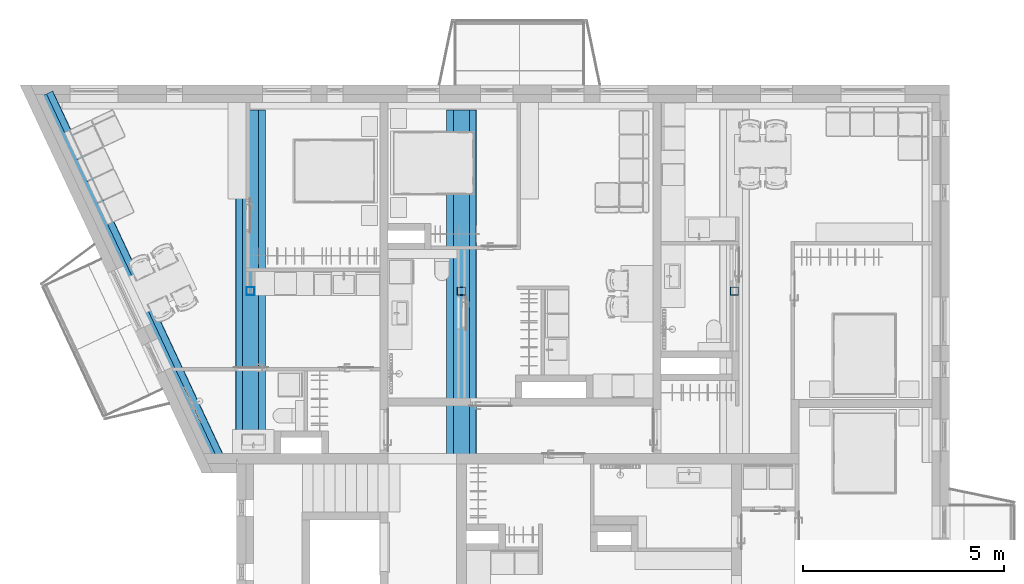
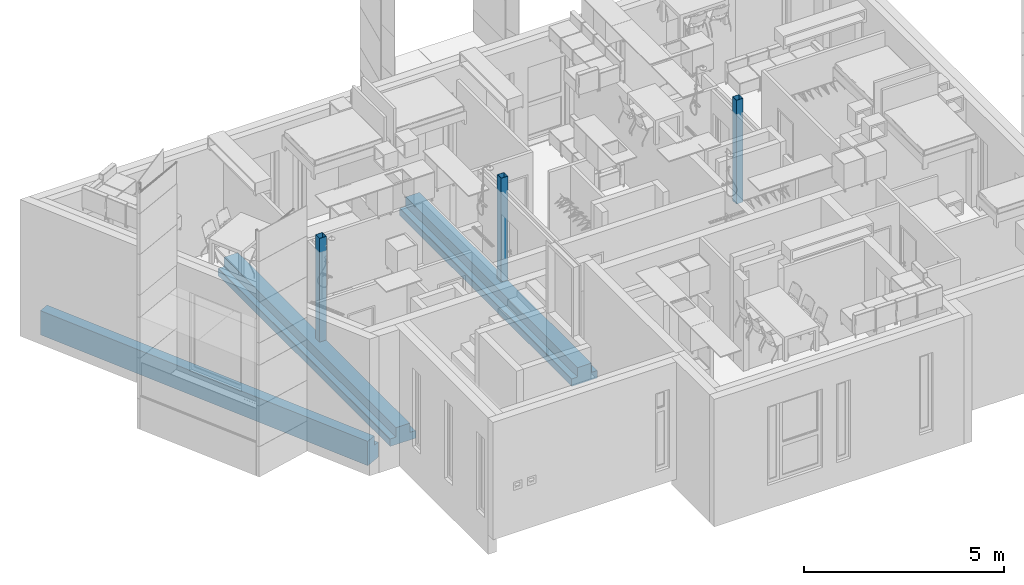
# One storey, part 1 of 125: 3 beams, 3 columns.
"""IFC2X3 building model written with IfcOpenShell, lengths in millimetres."""

from ifc_helpers import new_model, entity, si_unit, converted_unit, direction, frame, origin, place, context, subcontext, project, spatial, polyline, outline, extrude, source, transform, mapped, material, type_object, type_shapes, element, save


model = new_model("IFC2X3")

# Units and contexts
model_context = context("Model", 3, precision=0.01, world=origin(), true_north=direction((6.123233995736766e-17, 1.0)))
plan_context = context("Plan", 3, precision=0.01, world=origin(), true_north=direction((6.123233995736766e-17, 1.0)))
body_context = subcontext(model_context, "Body", "Model", "MODEL_VIEW")
ifc_project = project(units=[si_unit("LENGTHUNIT", "METRE", prefix="MILLI"), converted_unit("PLANEANGLEUNIT", "DEGREE", entity("IfcPlaneAngleMeasure", 0.017453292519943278), si_unit("PLANEANGLEUNIT", "RADIAN"), dimensions=[0, 0, 0, 0, 0, 0, 0]), si_unit("AREAUNIT", "SQUARE_METRE")], contexts=[model_context, plan_context])

# Site, building, storey
site_placement = place(None, origin())
site = spatial("IfcSite", under=ifc_project, at=site_placement, Name="Default", CompositionType="ELEMENT")
building_placement = place(site_placement, origin())
building = spatial("IfcBuilding", under=site, at=building_placement, CompositionType="ELEMENT")
storey_placement = place(building_placement, frame((0.0, 0.0, 3125.0)))
storey = spatial("IfcBuildingStorey", under=building, at=storey_placement, Name="2K", CompositionType="ELEMENT", Elevation=3125.0)

# Columns
ifc_material_1 = material(Name="_K. Metall. Teras. Värvitud")
column_type_1 = type_object("IfcColumnType", Name="HR_Column_Rectangular_Hollow:200x200x5", PredefinedType="COLUMN", material=ifc_material_1)
shared_shape_1 = source(origin(), body_context, "Body", "SweptSolid", [
    extrude(outline(polyline([(-100.0, -100.0), (100.0, -100.0), (100.0, 100.0), (-100.0, 100.0), (-100.0, -100.0)]), holes=[polyline([(95.0, 95.0), (95.0, -95.0), (-95.0, -95.0), (-95.0, 95.0), (95.0, 95.0)])]), frame((0.0, 0.0, 3125.0), z_axis=(0.0, 0.0, 1.0), x_axis=(0.0, 1.0, 0.0)), (0.0, 0.0, 1.0), 3169.9999999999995),
])
type_shapes(column_type_1, [shared_shape_1])
column_placement = place(storey_placement, frame((-75.0100000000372, 10700.0, -3125.0)))
element("IfcColumn", 1, at=column_placement, inside=storey, type_object=column_type_1, material=ifc_material_1, Name="HR_Column_Rectangular_Hollow:200x200x5", ObjectType="HR_Column_Rectangular_Hollow:200x200x5", context=body_context, shape_type="MappedRepresentation", body=[
    mapped(shared_shape_1, transform((0.0, 0.0, 0.0), scale=1.0)),
])
column_type_2 = type_object("IfcColumnType", Name="HR_Column_Rectangular_Hollow:200x200x8", PredefinedType="COLUMN", material=ifc_material_1)
shared_shape_2 = source(origin(), body_context, "Body", "SweptSolid", [
    extrude(outline(polyline([(-100.0, -100.0), (100.0, -100.0), (100.0, 100.0), (-100.0, 100.0), (-100.0, -100.0)]), holes=[polyline([(92.0, 92.0), (92.0, -92.0), (-92.0, -92.0), (-92.0, 92.0), (92.0, 92.0)])]), frame((0.0, 0.0, 3125.0), z_axis=(0.0, 0.0, 1.0), x_axis=(0.0, 1.0, 0.0)), (0.0, 0.0, 1.0), 3169.9999999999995),
])
type_shapes(column_type_2, [shared_shape_2])
for number, where, name in (
    (2, (5175.0, 10700.0, -3125.0), "HR_Column_Rectangular_Hollow:200x200x8"),
    (3, (11975.0, 10700.0, -3125.0), "HR_Column_Rectangular_Hollow:200x200x8"),
):
    element("IfcColumn", number, at=place(storey_placement, frame(where)), inside=storey, type_object=column_type_2, material=ifc_material_1, Name=name, ObjectType="HR_Column_Rectangular_Hollow:200x200x8", context=body_context, shape_type="MappedRepresentation", body=[
        mapped(shared_shape_2, transform((0.0, 0.0, 0.0), scale=1.0)),
    ])

# Beams
ifc_material_2 = material(Name="_K. Betoon. Armeeritud. Monteeritav")
beam_type_1 = type_object("IfcBeamType", Name="M_Precast Beam - Double-Sided Corbel - Straight Ends:T-tala", PredefinedType="BEAM")
for number, where, z_axis, x_axis in (
    (4, (-75.00999937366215, 15229.041478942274, -155.0), (0.0, 0.0, 1.0), (0.0, -1.0, 0.0)),
    (5, (5175.0000006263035, 15229.041478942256, -155.0), (0.0, 0.0, 1.0), (0.0, -1.0, 0.0)),
):
    element("IfcBeam", number, at=place(storey_placement, frame(where, z_axis=z_axis, x_axis=x_axis)), inside=storey, type_object=beam_type_1, material=ifc_material_2, Name="M_Precast Beam - Double-Sided Corbel - Straight Ends:T-tala", ObjectType="M_Precast Beam - Double-Sided Corbel - Straight Ends:T-tala", context=body_context, shape_type="SweptSolid", body=[
        extrude(outline(polyline([(-19.166666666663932, -375.0), (190.83333333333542, -375.0), (200.8333333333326, -365.0), (200.83333333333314, 365.0), (190.8333333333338, 375.0), (-19.166666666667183, 375.0), (-29.166666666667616, 365.0), (-29.166666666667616, 200.0), (-314.16666666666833, 200.0), (-314.1666666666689, -200.0), (-29.1666666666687, -200.0), (-29.166666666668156, -365.0), (-19.166666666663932, -375.0)])), frame((20.0, 0.0, -314.1666666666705), z_axis=(1.0, 0.0, 0.0), x_axis=(0.0, 0.0, -1.0)), (0.0, 0.0, 1.0), 8610.0),
    ])
beam_type_2 = type_object("IfcBeamType", Name="M_Precast Beam - One-Sided Corbel - Straight Ends:400x600", PredefinedType="BEAM")
beam_placement = place(storey_placement, frame((-1045.387053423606, 6483.663069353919, -155.0), z_axis=(0.0, 0.0, 1.0), x_axis=(-0.42443224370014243, 0.9054597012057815, 0.0)))
element("IfcBeam", 6, at=beam_placement, inside=storey, type_object=beam_type_2, material=ifc_material_2, Name="M_Precast Beam - One-Sided Corbel - Straight Ends:400x600", ObjectType="M_Precast Beam - One-Sided Corbel - Straight Ends:400x600", context=body_context, shape_type="SweptSolid", body=[
    extrude(outline(polyline([(-132.22222222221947, -198.3333333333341), (312.77777777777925, -198.33333333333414), (322.7777777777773, -188.33333333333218), (322.7777777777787, 266.666666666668), (312.7777777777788, 276.6666666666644), (-427.22222222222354, 276.666666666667), (-427.2222222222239, -23.3333333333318), (-142.2222222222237, -23.333333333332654), (-142.2222222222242, -188.33333333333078), (-132.22222222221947, -198.3333333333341)])), frame((20.0, -126.66666666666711, -427.222222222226), z_axis=(1.0, 0.0, 0.0), x_axis=(0.0, 0.0, -1.0)), (0.0, 0.0, 1.0), 9991.184886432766),
])

save(model, "model.ifc")
